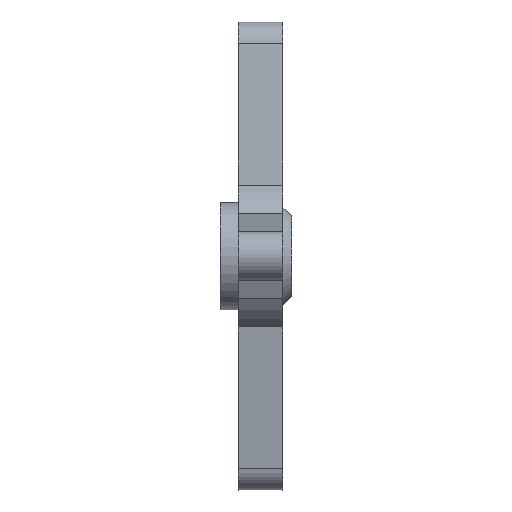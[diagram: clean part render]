
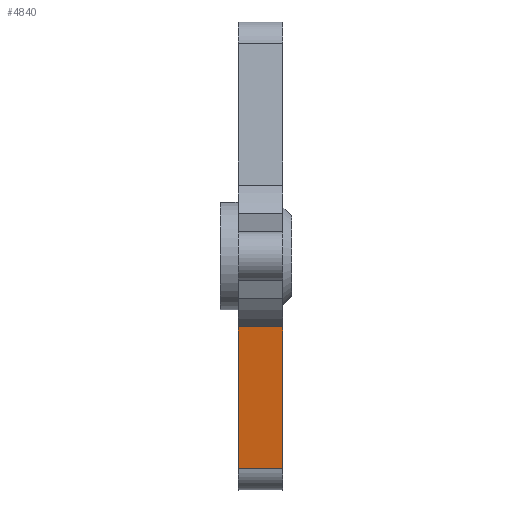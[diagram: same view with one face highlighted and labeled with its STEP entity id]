
A CAD part, left-side view. The second image highlights one B-rep face of the part: STEP entity #4840.
In plain terms, the highlighted planar face has unit normal (-0.992, 0, -0.127).
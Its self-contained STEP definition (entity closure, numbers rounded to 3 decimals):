
#234 = ORIENTED_EDGE ( 'NONE', *, *, #1517, .F. ) ;
#274 = ORIENTED_EDGE ( 'NONE', *, *, #2795, .T. ) ;
#623 = VECTOR ( 'NONE', #4434, 1000. ) ;
#678 = CARTESIAN_POINT ( 'NONE',  ( -2.728, 1., -23.785 ) ) ;
#766 = VERTEX_POINT ( 'NONE', #678 ) ;
#884 = DIRECTION ( 'NONE',  ( -0.127, 0., 0.992 ) ) ;
#910 = CARTESIAN_POINT ( 'NONE',  ( -4.75, 6., -7.937 ) ) ;
#1077 = CARTESIAN_POINT ( 'NONE',  ( -4.75, 1., -7.937 ) ) ;
#1364 = LINE ( 'NONE', #5162, #3598 ) ;
#1415 = DIRECTION ( 'NONE',  ( 0., 1., 0. ) ) ;
#1421 = DIRECTION ( 'NONE',  ( -0.127, 0., 0.992 ) ) ;
#1517 = EDGE_CURVE ( 'NONE', #766, #2905, #3059, .T. ) ;
#1591 = DIRECTION ( 'NONE',  ( 0.127, 0., -0.992 ) ) ;
#1728 = FACE_OUTER_BOUND ( 'NONE', #4946, .T. ) ;
#2144 = ORIENTED_EDGE ( 'NONE', *, *, #3451, .T. ) ;
#2306 = AXIS2_PLACEMENT_3D ( 'NONE', #3428, #3394, #884 ) ;
#2436 = CARTESIAN_POINT ( 'NONE',  ( -2.728, 6., -23.785 ) ) ;
#2795 = EDGE_CURVE ( 'NONE', #4609, #5219, #3590, .T. ) ;
#2853 = LINE ( 'NONE', #4487, #2989 ) ;
#2905 = VERTEX_POINT ( 'NONE', #2436 ) ;
#2908 = EDGE_CURVE ( 'NONE', #5219, #2905, #2853, .T. ) ;
#2989 = VECTOR ( 'NONE', #1591, 1000. ) ;
#3059 = LINE ( 'NONE', #3854, #3928 ) ;
#3185 = CARTESIAN_POINT ( 'NONE',  ( -4.75, -20.575, -7.937 ) ) ;
#3341 = ORIENTED_EDGE ( 'NONE', *, *, #2908, .T. ) ;
#3394 = DIRECTION ( 'NONE',  ( -0.992, 0., -0.127 ) ) ;
#3428 = CARTESIAN_POINT ( 'NONE',  ( -4.75, -20.575, -7.937 ) ) ;
#3451 = EDGE_CURVE ( 'NONE', #766, #4609, #1364, .T. ) ;
#3590 = LINE ( 'NONE', #3185, #623 ) ;
#3598 = VECTOR ( 'NONE', #1421, 1000. ) ;
#3854 = CARTESIAN_POINT ( 'NONE',  ( -2.728, -20.575, -23.785 ) ) ;
#3928 = VECTOR ( 'NONE', #1415, 1000. ) ;
#4189 = PLANE ( 'NONE',  #2306 ) ;
#4434 = DIRECTION ( 'NONE',  ( 0., 1., 0. ) ) ;
#4487 = CARTESIAN_POINT ( 'NONE',  ( -4.75, 6., -7.937 ) ) ;
#4609 = VERTEX_POINT ( 'NONE', #1077 ) ;
#4840 = ADVANCED_FACE ( 'NONE', ( #1728 ), #4189, .T. ) ;
#4946 = EDGE_LOOP ( 'NONE', ( #234, #2144, #274, #3341 ) ) ;
#5162 = CARTESIAN_POINT ( 'NONE',  ( -4.75, 1., -7.937 ) ) ;
#5219 = VERTEX_POINT ( 'NONE', #910 ) ;
